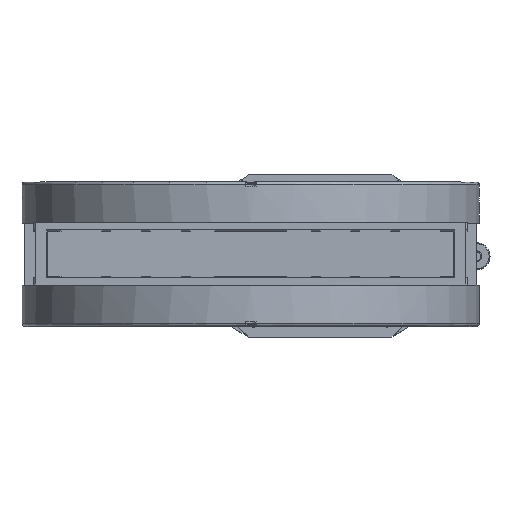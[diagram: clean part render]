
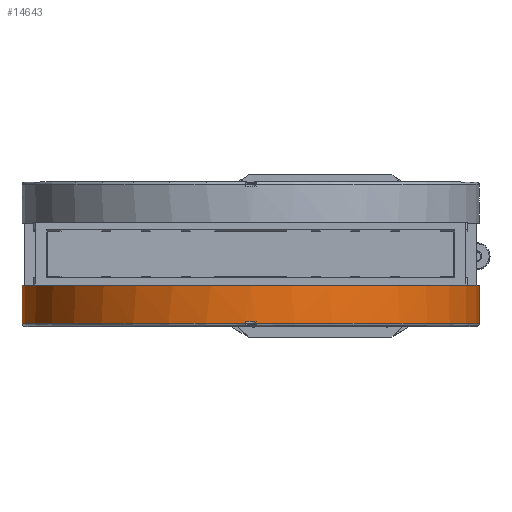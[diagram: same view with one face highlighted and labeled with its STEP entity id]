
A CAD part, top view. The second image highlights one B-rep face of the part: STEP entity #14643.
In plain terms, the highlighted cylindrical face has radius 126.6 mm (diameter 253.2 mm), a full revolution.
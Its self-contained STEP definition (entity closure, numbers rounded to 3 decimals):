
#10987=LINE('',#47458,#13162);
#10988=LINE('',#47463,#13163);
#10989=LINE('',#47467,#13164);
#10990=LINE('',#47471,#13165);
#13162=VECTOR('',#39097,1.);
#13163=VECTOR('',#39100,1.);
#13164=VECTOR('',#39103,1.);
#13165=VECTOR('',#39106,1.);
#14643=ADVANCED_FACE('BCT_REF_61925',(#16165,#16166),#15592,.T.);
#15592=CYLINDRICAL_SURFACE('',#34474,126.6);
#16165=FACE_BOUND('',#17798,.T.);
#16166=FACE_BOUND('',#17799,.T.);
#17798=EDGE_LOOP('',(#22750));
#17799=EDGE_LOOP('',(#22751,#22752,#22753,#22754,#22755,#22756,#22757,#22758));
#22750=ORIENTED_EDGE('',*,*,#30978,.T.);
#22751=ORIENTED_EDGE('',*,*,#30979,.T.);
#22752=ORIENTED_EDGE('',*,*,#30980,.T.);
#22753=ORIENTED_EDGE('',*,*,#30981,.F.);
#22754=ORIENTED_EDGE('',*,*,#30982,.F.);
#22755=ORIENTED_EDGE('',*,*,#30983,.T.);
#22756=ORIENTED_EDGE('',*,*,#30984,.T.);
#22757=ORIENTED_EDGE('',*,*,#30985,.F.);
#22758=ORIENTED_EDGE('',*,*,#30986,.T.);
#27757=VERTEX_POINT('',#47457);
#27758=VERTEX_POINT('',#47459);
#27759=VERTEX_POINT('',#47460);
#27760=VERTEX_POINT('',#47462);
#27761=VERTEX_POINT('',#47464);
#27762=VERTEX_POINT('',#47466);
#27763=VERTEX_POINT('',#47468);
#27764=VERTEX_POINT('',#47470);
#27765=VERTEX_POINT('',#47472);
#30978=EDGE_CURVE('',#27757,#27757,#33001,.T.);
#30979=EDGE_CURVE('',#27758,#27759,#10987,.T.);
#30980=EDGE_CURVE('',#27759,#27760,#33002,.T.);
#30981=EDGE_CURVE('',#27761,#27760,#10988,.T.);
#30982=EDGE_CURVE('',#27762,#27761,#33003,.T.);
#30983=EDGE_CURVE('',#27762,#27763,#10989,.T.);
#30984=EDGE_CURVE('',#27763,#27764,#33004,.T.);
#30985=EDGE_CURVE('',#27765,#27764,#10990,.T.);
#30986=EDGE_CURVE('',#27765,#27758,#33005,.T.);
#33001=CIRCLE('',#34469,126.6);
#33002=CIRCLE('',#34470,126.6);
#33003=CIRCLE('',#34471,126.6);
#33004=CIRCLE('',#34472,126.6);
#33005=CIRCLE('',#34473,126.6);
#34469=AXIS2_PLACEMENT_3D('',#47456,#39095,#39096);
#34470=AXIS2_PLACEMENT_3D('',#47461,#39098,#39099);
#34471=AXIS2_PLACEMENT_3D('',#47465,#39101,#39102);
#34472=AXIS2_PLACEMENT_3D('',#47469,#39104,#39105);
#34473=AXIS2_PLACEMENT_3D('',#47473,#39107,#39108);
#34474=AXIS2_PLACEMENT_3D('',#47474,#39109,#39110);
#39095=DIRECTION('',(0.,-1.,0.));
#39096=DIRECTION('',(0.,0.,-1.));
#39097=DIRECTION('',(0.,-1.,0.));
#39098=DIRECTION('',(0.,1.,0.));
#39099=DIRECTION('',(0.,0.,1.));
#39100=DIRECTION('',(0.,-1.,0.));
#39101=DIRECTION('',(0.,-1.,0.));
#39102=DIRECTION('',(0.,0.,-1.));
#39103=DIRECTION('',(0.,-1.,0.));
#39104=DIRECTION('',(0.,1.,0.));
#39105=DIRECTION('',(0.,0.,1.));
#39106=DIRECTION('',(0.,-1.,0.));
#39107=DIRECTION('',(0.,1.,0.));
#39108=DIRECTION('',(0.,0.,-1.));
#39109=DIRECTION('',(0.,-1.,0.));
#39110=DIRECTION('',(0.,0.,-1.));
#47456=CARTESIAN_POINT('',(0.,-17.25,412.));
#47457=CARTESIAN_POINT('',(0.,-17.25,285.4));
#47458=CARTESIAN_POINT('',(-3.,-37.45,285.436));
#47459=CARTESIAN_POINT('',(-3.,-37.45,285.436));
#47460=CARTESIAN_POINT('',(-3.,-38.45,285.436));
#47461=CARTESIAN_POINT('',(0.,-38.45,412.));
#47462=CARTESIAN_POINT('',(-3.,-38.45,538.564));
#47463=CARTESIAN_POINT('',(-3.,-37.45,538.564));
#47464=CARTESIAN_POINT('',(-3.,-37.45,538.564));
#47465=CARTESIAN_POINT('',(0.,-37.45,412.));
#47466=CARTESIAN_POINT('',(3.,-37.45,538.564));
#47467=CARTESIAN_POINT('',(3.,-37.45,538.564));
#47468=CARTESIAN_POINT('',(3.,-38.45,538.564));
#47469=CARTESIAN_POINT('',(0.,-38.45,412.));
#47470=CARTESIAN_POINT('',(3.,-38.45,285.436));
#47471=CARTESIAN_POINT('',(3.,-37.45,285.436));
#47472=CARTESIAN_POINT('',(3.,-37.45,285.436));
#47473=CARTESIAN_POINT('',(0.,-37.45,412.));
#47474=CARTESIAN_POINT('',(0.,-38.65,412.));
